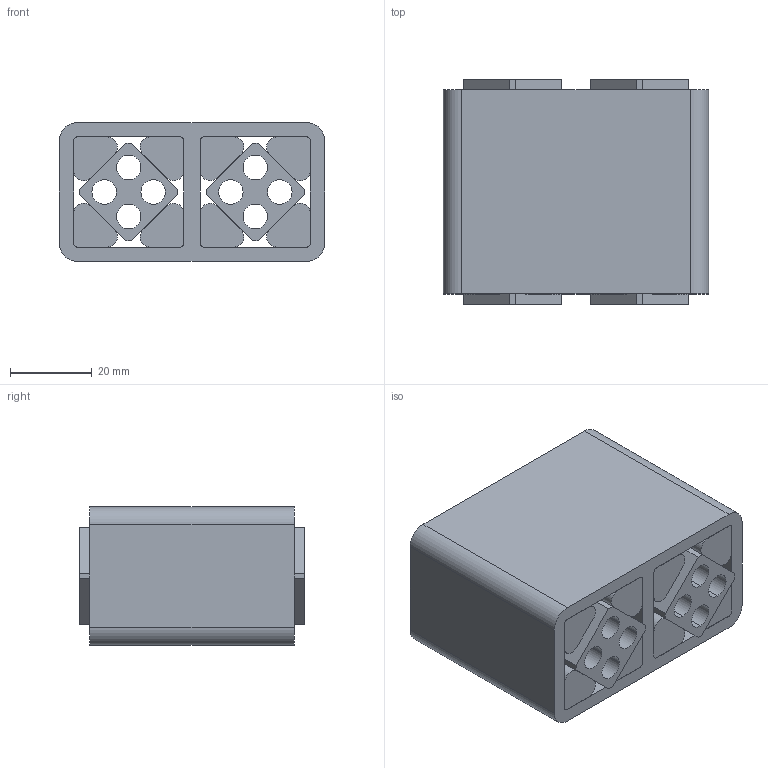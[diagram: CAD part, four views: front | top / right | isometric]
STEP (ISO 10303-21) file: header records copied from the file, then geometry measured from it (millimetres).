
FILE_DESCRIPTION((''),'2;1');
FILE_NAME('\\rostaofc\data\uw\save\daten_f\Normprogramm 3D\Gummifederelemente\DO-A18x50_01041005.stp','2004-09-28T07:32:30',('uw'),(''),'Autodesk Inventor 8','Autodesk Inventor 8','');
FILE_SCHEMA(('AUTOMOTIVE_DESIGN { 1 0 10303 214 1 1 1 1 }'));
Length unit declared in the file: millimetre
Products named in the file (4): DO-A18x50 Normelement; 4_4_3759-001; 4_4_3759-002; 4_4_3759-003
Assembly tree (11 placements, depth 2):
  DO-A18x50 Normelement
    4_4_3759-001
    4_4_3759-002  x2
    4_4_3759-003  x8
Bounding box: 65 x 55 x 34 mm (x, y, z)
Volume: 94254.9 mm3; surface area: 54152.2 mm2
Topology: 11 solids, 11 shells, 126 faces, 312 edges, 208 vertices
Faces by surface type: plane 74, cylinder 52
Entity records: 1819 total; most frequent: DIRECTION 318, CARTESIAN_POINT 297, ORIENTED_EDGE 276, EDGE_CURVE 138, AXIS2_PLACEMENT_3D 113, VERTEX_POINT 92, VECTOR 92, LINE 92
